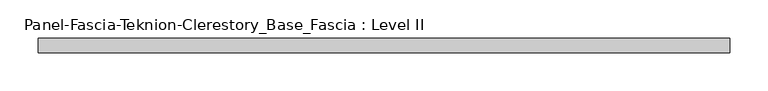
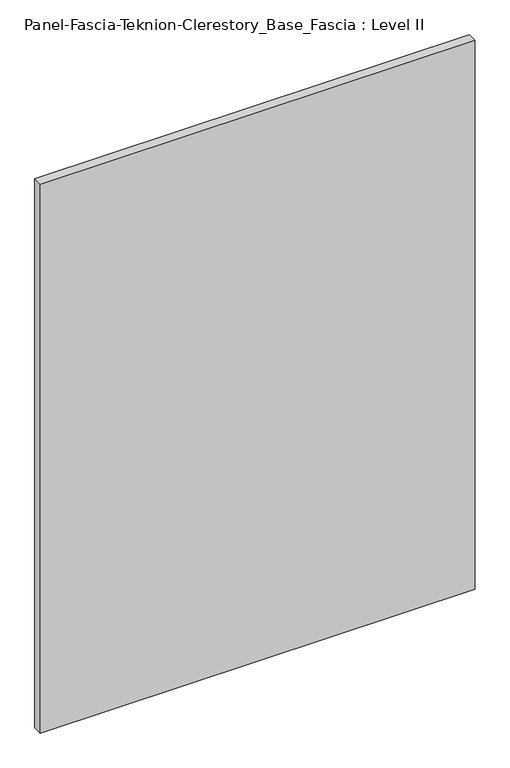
"""IFC4 building model written with IfcOpenShell, lengths in millimetres: proxy geometry, Panel-Fascia-Teknion-Clerestory_Base_Fascia : Level II."""

from ifc_helpers import new_model, si_unit, frame, origin, place, context, project, spatial, polyline, outline, extrude, source, transform, mapped, element, save


def panel_fascia_teknion_clerestory_base_fascia_level_ii_e9959047(model_context):
    return source(origin(), model_context, "Body", "SweptSolid", [
        extrude(outline(polyline([(454.6147563, -9.525), (-454.6147562, -9.525), (-454.6147562, 9.525), (454.6147563, 9.525), (454.6147563, -9.525)])), frame((0.0, 0.0, 3.175), z_axis=(0.0, 0.0, 1.0), x_axis=(1.0, 0.0, 0.0)), (0.0, 0.0, 1.0), 1212.85),
    ])


if __name__ == "__main__":
    model = new_model("IFC4")
    model_context = context("Model", 3, world=origin())
    ifc_project = project(units=[si_unit("LENGTHUNIT", "METRE", prefix="MILLI")], contexts=[model_context])
    site = spatial("IfcSite", under=ifc_project)
    building = spatial("IfcBuilding", under=site)
    placement = place(None, origin())
    panel_fascia_teknion_clerestory_base_fascia_level_ii_shape = panel_fascia_teknion_clerestory_base_fascia_level_ii_e9959047(model_context)
    element("IfcBuildingElementProxy", 1, Name="Panel-Fascia-Teknion-Clerestory_Base_Fascia : Level II", ObjectType="Panel-Fascia-Teknion-Clerestory_Base_Fascia : Level II", at=placement, inside=building, context=model_context, shape_type="MappedRepresentation", body=[
        mapped(panel_fascia_teknion_clerestory_base_fascia_level_ii_shape, transform((0.0, 0.0, 0.0), x_axis=(1.0, 0.0, 0.0), y_axis=(0.0, 1.0, 0.0), z_axis=(0.0, 0.0, 1.0))),
    ])
    save(model, "model.ifc")
